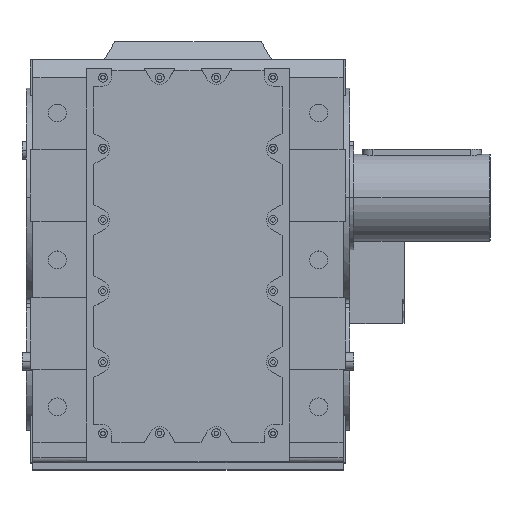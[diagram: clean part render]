
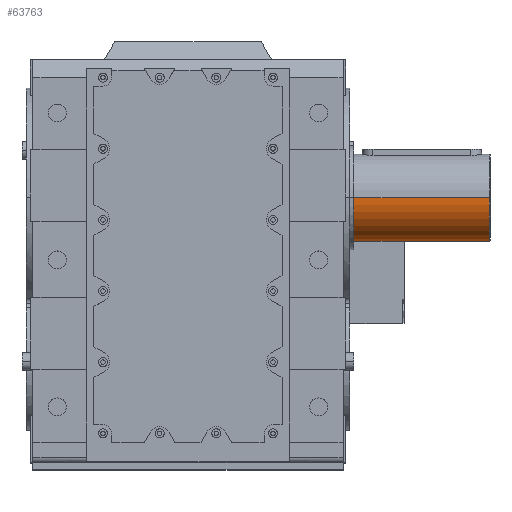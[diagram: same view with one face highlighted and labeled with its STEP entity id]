
A CAD part, top view. The second image highlights one B-rep face of the part: STEP entity #63763.
In plain terms, the highlighted cylindrical face has radius 80 mm (diameter 160 mm), a partial arc.
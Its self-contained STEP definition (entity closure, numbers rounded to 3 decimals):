
#62896 = CYLINDRICAL_SURFACE('',#62897,80.);
#62897 = AXIS2_PLACEMENT_3D('',#62898,#62899,#62900);
#62898 = CARTESIAN_POINT('',(0.,0.,0.));
#62899 = DIRECTION('',(-1.,0.,0.));
#62900 = DIRECTION('',(0.,0.,1.));
#63498 = VERTEX_POINT('',#63499);
#63499 = CARTESIAN_POINT('',(553.5,0.,80.));
#63500 = VERTEX_POINT('',#63501);
#63501 = CARTESIAN_POINT('',(553.5,0.,-80.));
#63549 = EDGE_CURVE('',#63500,#63550,#63552,.T.);
#63550 = VERTEX_POINT('',#63551);
#63551 = CARTESIAN_POINT('',(305.,0.,-80.));
#63552 = SURFACE_CURVE('',#63553,(#63557,#63563),.PCURVE_S1.);
#63553 = LINE('',#63554,#63555);
#63554 = CARTESIAN_POINT('',(0.,0.,-80.));
#63555 = VECTOR('',#63556,1.);
#63556 = DIRECTION('',(-1.,0.,0.));
#63557 = PCURVE('',#62896,#63558);
#63558 = DEFINITIONAL_REPRESENTATION('',(#63559),#63562);
#63559 = B_SPLINE_CURVE_WITH_KNOTS('',1,(#63560,#63561),.UNSPECIFIED.,
  .F.,.F.,(2,2),(-553.5,-305.),.PIECEWISE_BEZIER_KNOTS.);
#63560 = CARTESIAN_POINT('',(3.142,-553.5));
#63561 = CARTESIAN_POINT('',(3.142,-305.));
#63562 = ( GEOMETRIC_REPRESENTATION_CONTEXT(2) 
PARAMETRIC_REPRESENTATION_CONTEXT() REPRESENTATION_CONTEXT('2D SPACE',''
  ) );
#63563 = PCURVE('',#63564,#63569);
#63564 = CYLINDRICAL_SURFACE('',#63565,80.);
#63565 = AXIS2_PLACEMENT_3D('',#63566,#63567,#63568);
#63566 = CARTESIAN_POINT('',(0.,0.,0.));
#63567 = DIRECTION('',(-1.,0.,0.));
#63568 = DIRECTION('',(0.,0.,1.));
#63569 = DEFINITIONAL_REPRESENTATION('',(#63570),#63573);
#63570 = B_SPLINE_CURVE_WITH_KNOTS('',1,(#63571,#63572),.UNSPECIFIED.,
  .F.,.F.,(2,2),(-553.5,-305.),.PIECEWISE_BEZIER_KNOTS.);
#63571 = CARTESIAN_POINT('',(3.142,-553.5));
#63572 = CARTESIAN_POINT('',(3.142,-305.));
#63573 = ( GEOMETRIC_REPRESENTATION_CONTEXT(2) 
PARAMETRIC_REPRESENTATION_CONTEXT() REPRESENTATION_CONTEXT('2D SPACE',''
  ) );
#63576 = VERTEX_POINT('',#63577);
#63577 = CARTESIAN_POINT('',(305.,0.,80.));
#63591 = PLANE('',#63592);
#63592 = AXIS2_PLACEMENT_3D('',#63593,#63594,#63595);
#63593 = CARTESIAN_POINT('',(305.,80.,0.));
#63594 = DIRECTION('',(-1.,0.,0.));
#63595 = DIRECTION('',(0.,0.,1.));
#63603 = EDGE_CURVE('',#63498,#63576,#63604,.T.);
#63604 = SURFACE_CURVE('',#63605,(#63609,#63615),.PCURVE_S1.);
#63605 = LINE('',#63606,#63607);
#63606 = CARTESIAN_POINT('',(0.,0.,80.));
#63607 = VECTOR('',#63608,1.);
#63608 = DIRECTION('',(-1.,0.,0.));
#63609 = PCURVE('',#62896,#63610);
#63610 = DEFINITIONAL_REPRESENTATION('',(#63611),#63614);
#63611 = B_SPLINE_CURVE_WITH_KNOTS('',1,(#63612,#63613),.UNSPECIFIED.,
  .F.,.F.,(2,2),(-553.5,-305.),.PIECEWISE_BEZIER_KNOTS.);
#63612 = CARTESIAN_POINT('',(0.,-553.5));
#63613 = CARTESIAN_POINT('',(0.,-305.));
#63614 = ( GEOMETRIC_REPRESENTATION_CONTEXT(2) 
PARAMETRIC_REPRESENTATION_CONTEXT() REPRESENTATION_CONTEXT('2D SPACE',''
  ) );
#63615 = PCURVE('',#63564,#63616);
#63616 = DEFINITIONAL_REPRESENTATION('',(#63617),#63620);
#63617 = B_SPLINE_CURVE_WITH_KNOTS('',1,(#63618,#63619),.UNSPECIFIED.,
  .F.,.F.,(2,2),(-553.5,-305.),.PIECEWISE_BEZIER_KNOTS.);
#63618 = CARTESIAN_POINT('',(6.283,-553.5));
#63619 = CARTESIAN_POINT('',(6.283,-305.));
#63620 = ( GEOMETRIC_REPRESENTATION_CONTEXT(2) 
PARAMETRIC_REPRESENTATION_CONTEXT() REPRESENTATION_CONTEXT('2D SPACE',''
  ) );
#63743 = EDGE_CURVE('',#63550,#63576,#63744,.T.);
#63744 = SURFACE_CURVE('',#63745,(#63750,#63757),.PCURVE_S1.);
#63745 = CIRCLE('',#63746,80.);
#63746 = AXIS2_PLACEMENT_3D('',#63747,#63748,#63749);
#63747 = CARTESIAN_POINT('',(305.,0.,0.));
#63748 = DIRECTION('',(-1.,0.,0.));
#63749 = DIRECTION('',(0.,0.,1.));
#63750 = PCURVE('',#63591,#63751);
#63751 = DEFINITIONAL_REPRESENTATION('',(#63752),#63756);
#63752 = CIRCLE('',#63753,80.);
#63753 = AXIS2_PLACEMENT_2D('',#63754,#63755);
#63754 = CARTESIAN_POINT('',(0.,-80.));
#63755 = DIRECTION('',(1.,0.));
#63756 = ( GEOMETRIC_REPRESENTATION_CONTEXT(2) 
PARAMETRIC_REPRESENTATION_CONTEXT() REPRESENTATION_CONTEXT('2D SPACE',''
  ) );
#63757 = PCURVE('',#63564,#63758);
#63758 = DEFINITIONAL_REPRESENTATION('',(#63759),#63762);
#63759 = B_SPLINE_CURVE_WITH_KNOTS('',1,(#63760,#63761),.UNSPECIFIED.,
  .F.,.F.,(2,2),(3.142,6.283),.PIECEWISE_BEZIER_KNOTS.);
#63760 = CARTESIAN_POINT('',(3.142,-305.));
#63761 = CARTESIAN_POINT('',(6.283,-305.));
#63762 = ( GEOMETRIC_REPRESENTATION_CONTEXT(2) 
PARAMETRIC_REPRESENTATION_CONTEXT() REPRESENTATION_CONTEXT('2D SPACE',''
  ) );
#63763 = ADVANCED_FACE('',(#63764),#63564,.T.);
#63764 = FACE_BOUND('',#63765,.T.);
#63765 = EDGE_LOOP('',(#63766,#63767,#63815,#63816));
#63766 = ORIENTED_EDGE('',*,*,#63549,.F.);
#63767 = ORIENTED_EDGE('',*,*,#63768,.T.);
#63768 = EDGE_CURVE('',#63500,#63498,#63769,.T.);
#63769 = SURFACE_CURVE('',#63770,(#63775,#63781),.PCURVE_S1.);
#63770 = CIRCLE('',#63771,80.);
#63771 = AXIS2_PLACEMENT_3D('',#63772,#63773,#63774);
#63772 = CARTESIAN_POINT('',(553.5,0.,0.));
#63773 = DIRECTION('',(-1.,0.,0.));
#63774 = DIRECTION('',(0.,0.,1.));
#63775 = PCURVE('',#63564,#63776);
#63776 = DEFINITIONAL_REPRESENTATION('',(#63777),#63780);
#63777 = B_SPLINE_CURVE_WITH_KNOTS('',1,(#63778,#63779),.UNSPECIFIED.,
  .F.,.F.,(2,2),(3.142,6.283),.PIECEWISE_BEZIER_KNOTS.);
#63778 = CARTESIAN_POINT('',(3.142,-553.5));
#63779 = CARTESIAN_POINT('',(6.283,-553.5));
#63780 = ( GEOMETRIC_REPRESENTATION_CONTEXT(2) 
PARAMETRIC_REPRESENTATION_CONTEXT() REPRESENTATION_CONTEXT('2D SPACE',''
  ) );
#63781 = PCURVE('',#63782,#63787);
#63782 = CONICAL_SURFACE('',#63783,78.5,0.785);
#63783 = AXIS2_PLACEMENT_3D('',#63784,#63785,#63786);
#63784 = CARTESIAN_POINT('',(555.,0.,0.));
#63785 = DIRECTION('',(-1.,0.,0.));
#63786 = DIRECTION('',(0.,0.,1.));
#63787 = DEFINITIONAL_REPRESENTATION('',(#63788),#63814);
#63788 = B_SPLINE_CURVE_WITH_KNOTS('',3,(#63789,#63790,#63791,#63792,
    #63793,#63794,#63795,#63796,#63797,#63798,#63799,#63800,#63801,
    #63802,#63803,#63804,#63805,#63806,#63807,#63808,#63809,#63810,
    #63811,#63812,#63813),.UNSPECIFIED.,.F.,.F.,(4,1,1,1,1,1,1,1,1,1,1,1
    ,1,1,1,1,1,1,1,1,1,1,4),(3.142,3.284,3.427
    ,3.57,3.713,3.856,3.998,
    4.141,4.284,4.427,4.57,
    4.712,4.855,4.998,5.141,
    5.284,5.426,5.569,5.712,
    5.855,5.998,6.14,6.283),
  .QUASI_UNIFORM_KNOTS.);
#63789 = CARTESIAN_POINT('',(3.142,1.5));
#63790 = CARTESIAN_POINT('',(3.189,1.5));
#63791 = CARTESIAN_POINT('',(3.284,1.5));
#63792 = CARTESIAN_POINT('',(3.427,1.5));
#63793 = CARTESIAN_POINT('',(3.57,1.5));
#63794 = CARTESIAN_POINT('',(3.713,1.5));
#63795 = CARTESIAN_POINT('',(3.856,1.5));
#63796 = CARTESIAN_POINT('',(3.998,1.5));
#63797 = CARTESIAN_POINT('',(4.141,1.5));
#63798 = CARTESIAN_POINT('',(4.284,1.5));
#63799 = CARTESIAN_POINT('',(4.427,1.5));
#63800 = CARTESIAN_POINT('',(4.57,1.5));
#63801 = CARTESIAN_POINT('',(4.712,1.5));
#63802 = CARTESIAN_POINT('',(4.855,1.5));
#63803 = CARTESIAN_POINT('',(4.998,1.5));
#63804 = CARTESIAN_POINT('',(5.141,1.5));
#63805 = CARTESIAN_POINT('',(5.284,1.5));
#63806 = CARTESIAN_POINT('',(5.426,1.5));
#63807 = CARTESIAN_POINT('',(5.569,1.5));
#63808 = CARTESIAN_POINT('',(5.712,1.5));
#63809 = CARTESIAN_POINT('',(5.855,1.5));
#63810 = CARTESIAN_POINT('',(5.998,1.5));
#63811 = CARTESIAN_POINT('',(6.14,1.5));
#63812 = CARTESIAN_POINT('',(6.236,1.5));
#63813 = CARTESIAN_POINT('',(6.283,1.5));
#63814 = ( GEOMETRIC_REPRESENTATION_CONTEXT(2) 
PARAMETRIC_REPRESENTATION_CONTEXT() REPRESENTATION_CONTEXT('2D SPACE',''
  ) );
#63815 = ORIENTED_EDGE('',*,*,#63603,.T.);
#63816 = ORIENTED_EDGE('',*,*,#63743,.F.);
